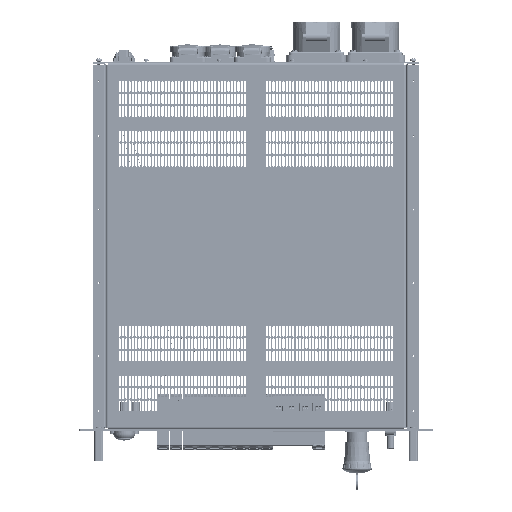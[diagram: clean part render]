
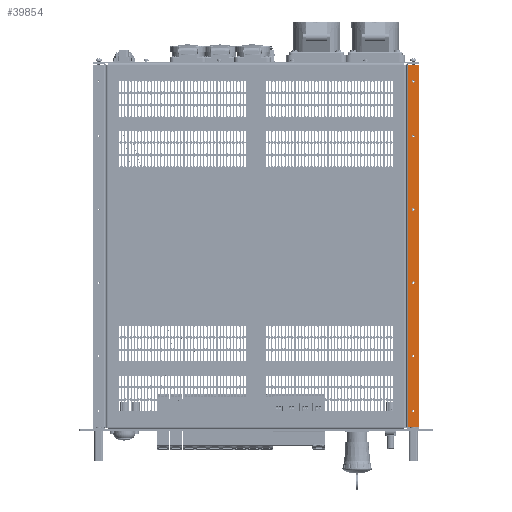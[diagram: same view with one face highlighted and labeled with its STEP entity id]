
A CAD part, top view. The second image highlights one B-rep face of the part: STEP entity #39854.
In plain terms, the highlighted planar face has unit normal (0, 0, 1) as drawn and (1, 0, 0) by its records, which use the part's own axes.
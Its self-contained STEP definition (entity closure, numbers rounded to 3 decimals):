
#39854=ADVANCED_FACE('',(#106944,#106945,#106946,#106947,#106948,#106949,#106950),#106951,.F.);
#106944=FACE_BOUND('',#188524,.T.);
#106945=FACE_BOUND('',#188525,.T.);
#106946=FACE_BOUND('',#188526,.T.);
#106947=FACE_BOUND('',#188527,.T.);
#106948=FACE_BOUND('',#188528,.T.);
#106949=FACE_BOUND('',#188529,.T.);
#106950=FACE_OUTER_BOUND('',#188530,.T.);
#106951=PLANE('',#188531);
#188524=EDGE_LOOP('',(#343988,#343989));
#188525=EDGE_LOOP('',(#343990,#343991));
#188526=EDGE_LOOP('',(#343992,#343993));
#188527=EDGE_LOOP('',(#343994,#343995));
#188528=EDGE_LOOP('',(#343996,#343997));
#188529=EDGE_LOOP('',(#343998,#343999));
#188530=EDGE_LOOP('',(#344000,#344001,#344002,#344003));
#188531=AXIS2_PLACEMENT_3D('',#344004,#344005,#344006);
#343988=ORIENTED_EDGE('',*,*,#492665,.T.);
#343989=ORIENTED_EDGE('',*,*,#492670,.T.);
#343990=ORIENTED_EDGE('',*,*,#493979,.T.);
#343991=ORIENTED_EDGE('',*,*,#492538,.T.);
#343992=ORIENTED_EDGE('',*,*,#493980,.T.);
#343993=ORIENTED_EDGE('',*,*,#492533,.T.);
#343994=ORIENTED_EDGE('',*,*,#493981,.T.);
#343995=ORIENTED_EDGE('',*,*,#492528,.T.);
#343996=ORIENTED_EDGE('',*,*,#493982,.T.);
#343997=ORIENTED_EDGE('',*,*,#492523,.T.);
#343998=ORIENTED_EDGE('',*,*,#493983,.T.);
#343999=ORIENTED_EDGE('',*,*,#492518,.T.);
#344000=ORIENTED_EDGE('',*,*,#492680,.F.);
#344001=ORIENTED_EDGE('',*,*,#493984,.T.);
#344002=ORIENTED_EDGE('',*,*,#493985,.T.);
#344003=ORIENTED_EDGE('',*,*,#493974,.T.);
#344004=CARTESIAN_POINT('',(128.05,250.0,8.5));
#344005=DIRECTION('',(-1.0,0.0,0.));
#344006=DIRECTION('',(0.,0.0,1.0));
#492518=EDGE_CURVE('',#562457,#562461,#562463,.T.);
#492523=EDGE_CURVE('',#562466,#562470,#562472,.T.);
#492528=EDGE_CURVE('',#562475,#562479,#562481,.T.);
#492533=EDGE_CURVE('',#562484,#562488,#562490,.T.);
#492538=EDGE_CURVE('',#562493,#562497,#562499,.T.);
#492665=EDGE_CURVE('',#562724,#562721,#562725,.T.);
#492670=EDGE_CURVE('',#562721,#562724,#562731,.T.);
#492680=EDGE_CURVE('',#562742,#562744,#562745,.T.);
#493974=EDGE_CURVE('',#565285,#562744,#565286,.T.);
#493979=EDGE_CURVE('',#562497,#562493,#565292,.T.);
#493980=EDGE_CURVE('',#562488,#562484,#565293,.T.);
#493981=EDGE_CURVE('',#562479,#562475,#565294,.T.);
#493982=EDGE_CURVE('',#562470,#562466,#565295,.T.);
#493983=EDGE_CURVE('',#562461,#562457,#565296,.T.);
#493984=EDGE_CURVE('',#562742,#565297,#565298,.T.);
#493985=EDGE_CURVE('',#565297,#565285,#565299,.T.);
#562457=VERTEX_POINT('',#657701);
#562461=VERTEX_POINT('',#657706);
#562463=CIRCLE('',#657709,1.75);
#562466=VERTEX_POINT('',#657712);
#562470=VERTEX_POINT('',#657717);
#562472=CIRCLE('',#657720,1.75);
#562475=VERTEX_POINT('',#657723);
#562479=VERTEX_POINT('',#657728);
#562481=CIRCLE('',#657731,1.75);
#562484=VERTEX_POINT('',#657734);
#562488=VERTEX_POINT('',#657739);
#562490=CIRCLE('',#657742,1.75);
#562493=VERTEX_POINT('',#657745);
#562497=VERTEX_POINT('',#657750);
#562499=CIRCLE('',#657753,1.75);
#562721=VERTEX_POINT('',#658023);
#562724=VERTEX_POINT('',#658027);
#562725=CIRCLE('',#658028,1.75);
#562731=CIRCLE('',#658035,1.75);
#562742=VERTEX_POINT('',#658047);
#562744=VERTEX_POINT('',#658049);
#562745=LINE('',#658050,#658051);
#565285=VERTEX_POINT('',#661230);
#565286=LINE('',#661231,#661232);
#565292=CIRCLE('',#661240,1.75);
#565293=CIRCLE('',#661241,1.75);
#565294=CIRCLE('',#661242,1.75);
#565295=CIRCLE('',#661243,1.75);
#565296=CIRCLE('',#661244,1.75);
#565297=VERTEX_POINT('',#661245);
#565298=LINE('',#661246,#661247);
#565299=LINE('',#661248,#661249);
#657701=CARTESIAN_POINT('',(128.05,25.0,9.0));
#657706=CARTESIAN_POINT('',(128.05,25.0,5.5));
#657709=AXIS2_PLACEMENT_3D('',#780686,#780687,#780688);
#657712=CARTESIAN_POINT('',(128.05,100.0,9.0));
#657717=CARTESIAN_POINT('',(128.05,100.0,5.5));
#657720=AXIS2_PLACEMENT_3D('',#780694,#780695,#780696);
#657723=CARTESIAN_POINT('',(128.05,300.0,9.0));
#657728=CARTESIAN_POINT('',(128.05,300.0,5.5));
#657731=AXIS2_PLACEMENT_3D('',#780702,#780703,#780704);
#657734=CARTESIAN_POINT('',(128.05,400.0,9.0));
#657739=CARTESIAN_POINT('',(128.05,400.0,5.5));
#657742=AXIS2_PLACEMENT_3D('',#780710,#780711,#780712);
#657745=CARTESIAN_POINT('',(128.05,475.0,9.0));
#657750=CARTESIAN_POINT('',(128.05,475.0,5.5));
#657753=AXIS2_PLACEMENT_3D('',#780718,#780719,#780720);
#658023=CARTESIAN_POINT('',(128.05,200.0,5.5));
#658027=CARTESIAN_POINT('',(128.05,200.0,9.0));
#658028=AXIS2_PLACEMENT_3D('',#780926,#780927,#780928);
#658035=AXIS2_PLACEMENT_3D('',#780936,#780937,#780938);
#658047=CARTESIAN_POINT('',(128.05,2.5,14.0));
#658049=CARTESIAN_POINT('',(128.05,497.5,14.0));
#658050=CARTESIAN_POINT('',(128.05,250.0,14.0));
#658051=VECTOR('',#780955,1.0);
#661230=CARTESIAN_POINT('',(128.05,497.5,0.0));
#661231=CARTESIAN_POINT('',(128.05,497.5,8.5));
#661232=VECTOR('',#783542,1.0);
#661240=AXIS2_PLACEMENT_3D('',#783548,#783549,#783550);
#661241=AXIS2_PLACEMENT_3D('',#783551,#783552,#783553);
#661242=AXIS2_PLACEMENT_3D('',#783554,#783555,#783556);
#661243=AXIS2_PLACEMENT_3D('',#783557,#783558,#783559);
#661244=AXIS2_PLACEMENT_3D('',#783560,#783561,#783562);
#661245=CARTESIAN_POINT('',(128.05,2.5,0.0));
#661246=CARTESIAN_POINT('',(128.05,2.5,8.5));
#661247=VECTOR('',#783563,1.0);
#661248=CARTESIAN_POINT('',(128.05,250.0,0.0));
#661249=VECTOR('',#783564,1.0);
#780686=CARTESIAN_POINT('',(128.05,25.0,7.25));
#780687=DIRECTION('',(-1.0,0.0,0.));
#780688=DIRECTION('',(0.,0.0,1.0));
#780694=CARTESIAN_POINT('',(128.05,100.0,7.25));
#780695=DIRECTION('',(-1.0,0.0,0.));
#780696=DIRECTION('',(0.,0.0,1.0));
#780702=CARTESIAN_POINT('',(128.05,300.0,7.25));
#780703=DIRECTION('',(-1.0,0.0,0.));
#780704=DIRECTION('',(0.,0.0,1.0));
#780710=CARTESIAN_POINT('',(128.05,400.0,7.25));
#780711=DIRECTION('',(-1.0,0.0,0.));
#780712=DIRECTION('',(0.,0.0,1.0));
#780718=CARTESIAN_POINT('',(128.05,475.0,7.25));
#780719=DIRECTION('',(-1.0,0.0,0.));
#780720=DIRECTION('',(0.,0.0,1.0));
#780926=CARTESIAN_POINT('',(128.05,200.0,7.25));
#780927=DIRECTION('',(-1.0,0.0,0.));
#780928=DIRECTION('',(0.,0.0,-1.0));
#780936=CARTESIAN_POINT('',(128.05,200.0,7.25));
#780937=DIRECTION('',(-1.0,0.0,0.));
#780938=DIRECTION('',(0.,0.0,-1.0));
#780955=DIRECTION('',(0.0,1.0,0.0));
#783542=DIRECTION('',(0.0,0.0,1.0));
#783548=CARTESIAN_POINT('',(128.05,475.0,7.25));
#783549=DIRECTION('',(-1.0,0.0,0.));
#783550=DIRECTION('',(0.,0.0,1.0));
#783551=CARTESIAN_POINT('',(128.05,400.0,7.25));
#783552=DIRECTION('',(-1.0,0.0,0.));
#783553=DIRECTION('',(0.,0.0,1.0));
#783554=CARTESIAN_POINT('',(128.05,300.0,7.25));
#783555=DIRECTION('',(-1.0,0.0,0.));
#783556=DIRECTION('',(0.,0.0,1.0));
#783557=CARTESIAN_POINT('',(128.05,100.0,7.25));
#783558=DIRECTION('',(-1.0,0.0,0.));
#783559=DIRECTION('',(0.,0.0,1.0));
#783560=CARTESIAN_POINT('',(128.05,25.0,7.25));
#783561=DIRECTION('',(-1.0,0.0,0.));
#783562=DIRECTION('',(0.,0.0,1.0));
#783563=DIRECTION('',(0.0,0.0,-1.0));
#783564=DIRECTION('',(0.0,1.0,0.0));
